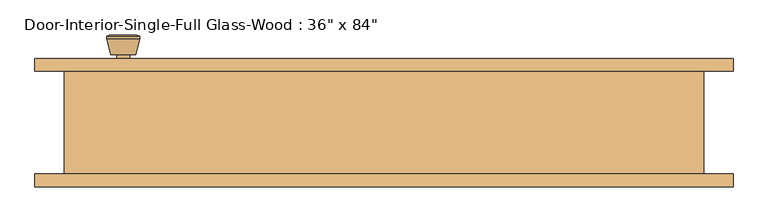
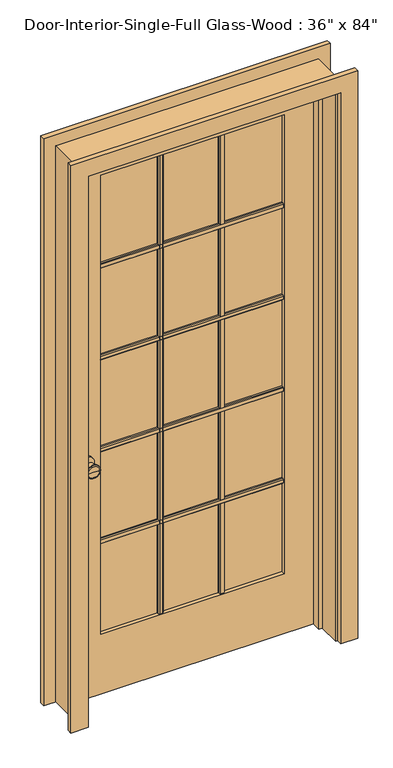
"""IFC4 building model written with IfcOpenShell, lengths in millimetres: door geometry."""

from ifc_helpers import new_model, si_unit, point, frame, frame_2d, origin, place, context, project, spatial, polyline, circle_curve, trimmed, segment, composite_curve, outline, extrude, faceted_brep, source, transform, mapped, element, save
from ifc_brep_helpers import plane_surface, cylinder_surface, revolved_surface, advanced_brep


def door_47956b35(model_context):
    return source(origin(), model_context, "Body", "SolidModel", [
        extrude(outline(polyline([(60.6425, 1667.51), (66.9925, 1667.51), (70.1675, 1664.335), (70.1675, 1651.635), (66.9925, 1648.46), (60.6425, 1648.46), (60.6425, 1667.51)])), frame((-336.55, 0.0, 0.0), z_axis=(1.0, 0.0, 0.0), x_axis=(0.0, 1.0, 0.0)), (0.0, 0.0, 1.0), 673.1),
        extrude(outline(polyline([(60.6425, 1310.9575), (66.9925, 1310.9575), (70.1675, 1307.7825), (70.1675, 1295.0825), (66.9925, 1291.9075), (60.6425, 1291.9075), (60.6425, 1310.9575)])), frame((-336.55, 0.0, 0.0), z_axis=(1.0, 0.0, 0.0), x_axis=(0.0, 1.0, 0.0)), (0.0, 0.0, 1.0), 673.1),
        extrude(outline(polyline([(60.6425, 954.405), (66.9925, 954.405), (70.1675, 951.23), (70.1675, 938.53), (66.9925, 935.355), (60.6425, 935.355), (60.6425, 954.405)])), frame((-336.55, 0.0, 0.0), z_axis=(1.0, 0.0, 0.0), x_axis=(0.0, 1.0, 0.0)), (0.0, 0.0, 1.0), 673.1),
        extrude(outline(polyline([(60.6425, 597.8525), (66.9925, 597.8525), (70.1675, 594.6775), (70.1675, 581.9775), (66.9925, 578.8025), (60.6425, 578.8025), (60.6425, 597.8525)])), frame((-336.55, 0.0, 0.0), z_axis=(1.0, 0.0, 0.0), x_axis=(0.0, 1.0, 0.0)), (0.0, 0.0, 1.0), 673.1),
        extrude(outline(polyline([(102.6583333, 60.6425), (102.6583333, 66.9925), (105.8333333, 70.1675), (118.5333333, 70.1675), (121.7083333, 66.9925), (121.7083333, 60.6425), (102.6583333, 60.6425)])), frame((0.0, 0.0, 231.775), z_axis=(0.0, 0.0, 1.0), x_axis=(1.0, 0.0, 0.0)), (0.0, 0.0, 1.0), 1782.7625),
        extrude(outline(polyline([(-121.7083333, 60.6425), (-121.7083333, 66.9925), (-118.5333333, 70.1675), (-105.8333333, 70.1675), (-102.6583333, 66.9925), (-102.6583333, 60.6425), (-121.7083333, 60.6425)])), frame((0.0, 0.0, 231.775), z_axis=(0.0, 0.0, 1.0), x_axis=(1.0, 0.0, 0.0)), (0.0, 0.0, 1.0), 1782.7625),
        extrude(outline(polyline([(53.6575, 1667.51), (53.6575, 1648.46), (47.3075, 1648.46), (44.1325, 1651.635), (44.1325, 1664.335), (47.3075, 1667.51), (53.6575, 1667.51)])), frame((-336.55, 0.0, 0.0), z_axis=(1.0, 0.0, 0.0), x_axis=(0.0, 1.0, 0.0)), (0.0, 0.0, 1.0), 673.1),
        extrude(outline(polyline([(53.6575, 1310.9575), (53.6575, 1291.9075), (47.3075, 1291.9075), (44.1325, 1295.0825), (44.1325, 1307.7825), (47.3075, 1310.9575), (53.6575, 1310.9575)])), frame((-336.55, 0.0, 0.0), z_axis=(1.0, 0.0, 0.0), x_axis=(0.0, 1.0, 0.0)), (0.0, 0.0, 1.0), 673.1),
        extrude(outline(polyline([(53.6575, 954.405), (53.6575, 935.355), (47.3075, 935.355), (44.1325, 938.53), (44.1325, 951.23), (47.3075, 954.405), (53.6575, 954.405)])), frame((-336.55, 0.0, 0.0), z_axis=(1.0, 0.0, 0.0), x_axis=(0.0, 1.0, 0.0)), (0.0, 0.0, 1.0), 673.1),
        extrude(outline(polyline([(53.6575, 597.8525), (53.6575, 578.8025), (47.3075, 578.8025), (44.1325, 581.9775), (44.1325, 594.6775), (47.3075, 597.8525), (53.6575, 597.8525)])), frame((-336.55, 0.0, 0.0), z_axis=(1.0, 0.0, 0.0), x_axis=(0.0, 1.0, 0.0)), (0.0, 0.0, 1.0), 673.1),
        extrude(outline(polyline([(102.6583333, 53.6575), (121.7083333, 53.6575), (121.7083333, 47.3075), (118.5333333, 44.1325), (105.8333333, 44.1325), (102.6583333, 47.3075), (102.6583333, 53.6575)])), frame((0.0, 0.0, 231.775), z_axis=(0.0, 0.0, 1.0), x_axis=(1.0, 0.0, 0.0)), (0.0, 0.0, 1.0), 1782.7625),
        extrude(outline(polyline([(-121.7083333, 53.6575), (-102.6583333, 53.6575), (-102.6583333, 47.3075), (-105.8333333, 44.1325), (-118.5333333, 44.1325), (-121.7083333, 47.3075), (-121.7083333, 53.6575)])), frame((0.0, 0.0, 231.775), z_axis=(0.0, 0.0, 1.0), x_axis=(1.0, 0.0, 0.0)), (0.0, 0.0, 1.0), 1782.7625),
        advanced_brep(
        [(-393.7, 33.6875, 914.4), (-383.7, 33.6875, 914.4), (-403.7, 33.6875, 914.4), (-373.2241324, -15.3125, 914.4), (-393.7, -15.3125, 914.4), (-414.1758676, -15.3125, 914.4), (-368.7, -13.4846319, 914.4), (-418.7, -13.4846319, 914.4), (-368.7, -10.0209537, 914.4), (-418.7, -10.0209537, 914.4), (-375.063764, 14.6875, 914.4), (-412.336236, 14.6875, 914.4), (-383.7, 14.6875, 914.4), (-403.7, 14.6875, 914.4)],
        [
            (0, 1),
            (1, 2, circle_curve(frame((-393.7, 33.6875, 914.4), z_axis=(0.0, 1.0, 0.0), x_axis=(-1.0, 0.0, 0.0)), 10.0)),
            (2, 0),
            (2, 1, circle_curve(frame((-393.7, 33.6875, 914.4), z_axis=(0.0, 1.0, 0.0), x_axis=(-1.0, 0.0, 0.0)), 10.0)),
            (3, 4),
            (4, 5),
            (5, 3, circle_curve(frame((-393.7, -15.3125, 914.4), z_axis=(0.0, -1.0, 0.0), x_axis=(-1.0, 0.0, 0.0)), 20.4758676)),
            (3, 5, circle_curve(frame((-393.7, -15.3125, 914.4), z_axis=(0.0, -1.0, 0.0), x_axis=(-1.0, 0.0, 0.0)), 20.4758676)),
            (6, 3),
            (5, 7),
            (7, 6, circle_curve(frame((-393.7, -13.4846319, 914.4), z_axis=(0.0, -1.0, 0.0), x_axis=(-1.0, 0.0, 0.0)), 25.0)),
            (6, 7, circle_curve(frame((-393.7, -13.4846319, 914.4), z_axis=(0.0, -1.0, 0.0), x_axis=(-1.0, 0.0, 0.0)), 25.0)),
            (8, 6),
            (7, 9),
            (9, 8, circle_curve(frame((-393.7, -10.0209537, 914.4), z_axis=(0.0, -1.0, 0.0), x_axis=(-1.0, 0.0, 0.0)), 25.0)),
            (8, 9, circle_curve(frame((-393.7, -10.0209537, 914.4), z_axis=(0.0, -1.0, 0.0), x_axis=(-1.0, 0.0, 0.0)), 25.0)),
            (10, 8),
            (9, 11),
            (11, 10, circle_curve(frame((-393.7, 14.6875, 914.4), z_axis=(0.0, -1.0, 0.0), x_axis=(-1.0, 0.0, 0.0)), 18.636236)),
            (10, 11, circle_curve(frame((-393.7, 14.6875, 914.4), z_axis=(0.0, -1.0, 0.0), x_axis=(-1.0, 0.0, 0.0)), 18.636236)),
            (12, 10),
            (11, 13),
            (13, 12, circle_curve(frame((-393.7, 14.6875, 914.4), z_axis=(0.0, -1.0, 0.0), x_axis=(-1.0, 0.0, 0.0)), 10.0)),
            (12, 13, circle_curve(frame((-393.7, 14.6875, 914.4), z_axis=(0.0, -1.0, 0.0), x_axis=(-1.0, 0.0, 0.0)), 10.0)),
            (1, 12),
            (13, 2),
        ],
        [
            plane_surface(frame((-393.7, 33.6875, 914.4), z_axis=(0.0, 1.0, 0.0), x_axis=(-1.0, 0.0, 0.0))),
            plane_surface(frame((-393.7, -15.3125, 914.4), z_axis=(0.0, -1.0, 0.0), x_axis=(-1.0, 0.0, 0.0))),
            revolved_surface(polyline([(-414.1758676, -15.3125, 914.4), (-418.7, -13.4846319, 914.4)]), (-393.7, 33.6875, 914.4), (0.0, 1.0, 0.0)),
            cylinder_surface(frame((-393.7, 33.6875, 914.4), z_axis=(0.0, 1.0, 0.0), x_axis=(-1.0, 0.0, 0.0)), 25.0),
            revolved_surface(polyline([(-418.7, -10.0209537, 914.4), (-412.336236, 14.6875, 914.4)]), (-393.7, 33.6875, 914.4), (0.0, 1.0, 0.0)),
            plane_surface(frame((-393.7, 14.6875, 914.4), z_axis=(0.0, 1.0, 0.0), x_axis=(-1.0, 0.0, 0.0))),
            cylinder_surface(frame((-393.7, 33.6875, 914.4), z_axis=(0.0, 1.0, 0.0), x_axis=(-1.0, 0.0, 0.0)), 10.0),
        ],
        [
            (0, [[1, 2, 3]]),
            (0, [[-3, 4, -1]]),
            (1, [[5, 6, 7]]),
            (1, [[-6, -5, 8]]),
            (2, [[9, -7, 10, 11]]),
            (2, [[-10, -8, -9, 12]]),
            (3, [[13, -11, 14, 15]]),
            (3, [[-14, -12, -13, 16]]),
            (4, [[17, -15, 18, 19]]),
            (4, [[-18, -16, -17, 20]]),
            (5, [[21, -19, 22, 23]]),
            (5, [[-22, -20, -21, 24]]),
            (6, [[25, -23, 26, -2]]),
            (6, [[-26, -24, -25, -4]]),
        ],
    ),
        extrude(outline(composite_curve([segment(trimmed(circle_curve(frame_2d((914.4, -393.7)), 30.0), [point((914.4, -423.7))], [point((914.4, -363.7))], False, "CARTESIAN"), True, "CONTINUOUS"), segment(trimmed(circle_curve(frame_2d((914.4, -393.7)), 30.0), [point((914.4, -363.7))], [point((914.4, -423.7))], False, "CARTESIAN"), True, "CONTINUOUS")], self_intersect=False)), frame((0.0, 33.6875, 0.0), z_axis=(0.0, 1.0, 0.0), x_axis=(0.0, 0.0, 1.0)), (0.0, 0.0, 1.0), 6.0),
        advanced_brep(
        [(-393.7, 80.6125, 914.4), (-403.7, 80.6125, 914.4), (-383.7, 80.6125, 914.4), (-373.2241324, 129.6125, 914.4), (-414.1758676, 129.6125, 914.4), (-393.7, 129.6125, 914.4), (-368.7, 127.7846319, 914.4), (-418.7, 127.7846319, 914.4), (-368.7, 124.3209537, 914.4), (-418.7, 124.3209537, 914.4), (-375.063764, 99.6125, 914.4), (-412.336236, 99.6125, 914.4), (-383.7, 99.6125, 914.4), (-403.7, 99.6125, 914.4)],
        [
            (0, 1),
            (1, 2, circle_curve(frame((-393.7, 80.6125, 914.4), z_axis=(0.0, -1.0, 0.0), x_axis=(-1.0, 0.0, 0.0)), 10.0)),
            (2, 0),
            (2, 1, circle_curve(frame((-393.7, 80.6125, 914.4), z_axis=(0.0, -1.0, 0.0), x_axis=(-1.0, 0.0, 0.0)), 10.0)),
            (3, 4, circle_curve(frame((-393.7, 129.6125, 914.4), z_axis=(0.0, 1.0, 0.0), x_axis=(-1.0, 0.0, 0.0)), 20.4758676)),
            (4, 5),
            (5, 3),
            (4, 3, circle_curve(frame((-393.7, 129.6125, 914.4), z_axis=(0.0, 1.0, 0.0), x_axis=(-1.0, 0.0, 0.0)), 20.4758676)),
            (6, 7, circle_curve(frame((-393.7, 127.7846319, 914.4), z_axis=(0.0, 1.0, 0.0), x_axis=(-1.0, 0.0, 0.0)), 25.0)),
            (7, 4),
            (3, 6),
            (7, 6, circle_curve(frame((-393.7, 127.7846319, 914.4), z_axis=(0.0, 1.0, 0.0), x_axis=(-1.0, 0.0, 0.0)), 25.0)),
            (8, 9, circle_curve(frame((-393.7, 124.3209537, 914.4), z_axis=(0.0, 1.0, 0.0), x_axis=(-1.0, 0.0, 0.0)), 25.0)),
            (9, 7),
            (6, 8),
            (9, 8, circle_curve(frame((-393.7, 124.3209537, 914.4), z_axis=(0.0, 1.0, 0.0), x_axis=(-1.0, 0.0, 0.0)), 25.0)),
            (10, 11, circle_curve(frame((-393.7, 99.6125, 914.4), z_axis=(0.0, 1.0, 0.0), x_axis=(-1.0, 0.0, 0.0)), 18.636236)),
            (11, 9),
            (8, 10),
            (11, 10, circle_curve(frame((-393.7, 99.6125, 914.4), z_axis=(0.0, 1.0, 0.0), x_axis=(-1.0, 0.0, 0.0)), 18.636236)),
            (12, 13, circle_curve(frame((-393.7, 99.6125, 914.4), z_axis=(0.0, 1.0, 0.0), x_axis=(-1.0, 0.0, 0.0)), 10.0)),
            (13, 11),
            (10, 12),
            (13, 12, circle_curve(frame((-393.7, 99.6125, 914.4), z_axis=(0.0, 1.0, 0.0), x_axis=(-1.0, 0.0, 0.0)), 10.0)),
            (1, 13),
            (12, 2),
        ],
        [
            plane_surface(frame((-393.7, 80.6125, 914.4), z_axis=(0.0, -1.0, 0.0), x_axis=(-1.0, 0.0, 0.0))),
            plane_surface(frame((-393.7, 129.6125, 914.4), z_axis=(0.0, 1.0, 0.0), x_axis=(-1.0, 0.0, 0.0))),
            revolved_surface(polyline([(-414.1758676, 129.6125, 914.4), (-418.7, 127.7846319, 914.4)]), (-393.7, 80.6125, 914.4), (0.0, -1.0, 0.0)),
            cylinder_surface(frame((-393.7, 80.6125, 914.4), z_axis=(0.0, -1.0, 0.0), x_axis=(-1.0, 0.0, 0.0)), 25.0),
            revolved_surface(polyline([(-418.7, 124.3209537, 914.4), (-412.336236, 99.6125, 914.4)]), (-393.7, 80.6125, 914.4), (0.0, -1.0, 0.0)),
            plane_surface(frame((-393.7, 99.6125, 914.4), z_axis=(0.0, -1.0, 0.0), x_axis=(-1.0, 0.0, 0.0))),
            cylinder_surface(frame((-393.7, 80.6125, 914.4), z_axis=(0.0, -1.0, 0.0), x_axis=(-1.0, 0.0, 0.0)), 10.0),
        ],
        [
            (0, [[1, 2, 3]]),
            (0, [[-3, 4, -1]]),
            (1, [[5, 6, 7]]),
            (1, [[8, -7, -6]]),
            (2, [[9, 10, -5, 11]]),
            (2, [[12, -11, -8, -10]]),
            (3, [[13, 14, -9, 15]]),
            (3, [[16, -15, -12, -14]]),
            (4, [[17, 18, -13, 19]]),
            (4, [[20, -19, -16, -18]]),
            (5, [[21, 22, -17, 23]]),
            (5, [[24, -23, -20, -22]]),
            (6, [[-2, 25, -21, 26]]),
            (6, [[-4, -26, -24, -25]]),
        ],
    ),
        extrude(outline(composite_curve([segment(trimmed(circle_curve(frame_2d((914.4, -393.7)), 30.0), [point((914.4, -423.7))], [point((914.4, -363.7))], False, "CARTESIAN"), True, "CONTINUOUS"), segment(trimmed(circle_curve(frame_2d((914.4, -393.7)), 30.0), [point((914.4, -363.7))], [point((914.4, -423.7))], False, "CARTESIAN"), True, "CONTINUOUS")], self_intersect=False)), frame((0.0, 74.6125, 0.0), z_axis=(0.0, 1.0, 0.0), x_axis=(0.0, 0.0, 1.0)), (0.0, 0.0, 1.0), 6.0),
        extrude(outline(polyline([(2133.6, -457.2), (0.0, -457.2), (0.0, 457.2), (2133.6, 457.2), (2133.6, -457.2)]), holes=[polyline([(2014.5375, -336.55), (2014.5375, 336.55), (231.775, 336.55), (231.775, -336.55), (2014.5375, -336.55)])]), frame((0.0, 39.6875, 0.0), z_axis=(0.0, 1.0, 0.0), x_axis=(0.0, 0.0, 1.0)), (0.0, 0.0, 1.0), 34.925),
        faceted_brep([(482.6, 74.6125, 0.0), (482.6, -80.9625, 0.0), (457.2, -80.9625, 0.0), (457.2, 4.7625, 0.0), (444.5, 4.7625, 0.0), (444.5, 39.6875, 0.0), (457.2, 39.6875, 0.0), (457.2, 74.6125, 0.0), (482.6, 74.6125, 2159.0), (482.6, -80.9625, 2159.0), (-482.6, -80.9625, 2159.0), (-482.6, -80.9625, 0.0), (-457.2, -80.9625, 0.0), (-457.2, -80.9625, 2133.6), (457.2, -80.9625, 2133.6), (457.2, 4.7625, 2133.6), (-457.2, 4.7625, 2133.6), (-457.2, 4.7625, 0.0), (-444.5, 4.7625, 0.0), (-444.5, 4.7625, 2120.9), (444.5, 4.7625, 2120.9), (444.5, 39.6875, 2120.9), (-444.5, 39.6875, 2120.9), (-444.5, 39.6875, 0.0), (-457.2, 39.6875, 0.0), (-457.2, 39.6875, 2133.6), (457.2, 39.6875, 2133.6), (457.2, 74.6125, 2133.6), (-457.2, 74.6125, 2133.6), (-457.2, 74.6125, 0.0), (-482.6, 74.6125, 0.0), (-482.6, 74.6125, 2159.0)], [[[0, 1, 2, 3, 4, 5, 6, 7]], [[1, 0, 8, 9]], [[2, 1, 9, 10, 11, 12, 13, 14]], [[3, 2, 14, 15]], [[4, 3, 15, 16, 17, 18, 19, 20]], [[5, 4, 20, 21]], [[6, 5, 21, 22, 23, 24, 25, 26]], [[7, 6, 26, 27]], [[0, 7, 27, 28, 29, 30, 31, 8]], [[9, 8, 31, 10]], [[15, 14, 13, 16]], [[21, 20, 19, 22]], [[27, 26, 25, 28]], [[30, 29, 24, 23, 18, 17, 12, 11]], [[10, 31, 30, 11]], [[16, 13, 12, 17]], [[22, 19, 18, 23]], [[28, 25, 24, 29]]]),
        extrude(outline(polyline([(336.55, 53.6575), (-336.55, 53.6575), (-336.55, 60.6425), (336.55, 60.6425), (336.55, 53.6575)])), frame((0.0, 0.0, 231.775), z_axis=(0.0, 0.0, 1.0), x_axis=(1.0, 0.0, 0.0)), (0.0, 0.0, 1.0), 1782.7625),
        extrude(outline(polyline([(0.0, 463.55), (0.0, 527.05), (2203.45, 527.05), (2203.45, -527.05), (0.0, -527.05), (0.0, -463.55), (2139.95, -463.55), (2139.95, 463.55), (0.0, 463.55)])), frame((0.0, -100.0125, 0.0), z_axis=(0.0, 1.0, 0.0), x_axis=(0.0, 0.0, 1.0)), (0.0, 0.0, 1.0), 19.05),
        extrude(outline(polyline([(0.0, 463.55), (0.0, 527.05), (2203.45, 527.05), (2203.45, -527.05), (0.0, -527.05), (0.0, -463.55), (2139.95, -463.55), (2139.95, 463.55), (0.0, 463.55)])), frame((0.0, 74.6125, 0.0), z_axis=(0.0, 1.0, 0.0), x_axis=(0.0, 0.0, 1.0)), (0.0, 0.0, 1.0), 19.05),
    ])


if __name__ == "__main__":
    model = new_model("IFC4")
    model_context = context("Model", 3, world=origin())
    ifc_project = project(units=[si_unit("LENGTHUNIT", "METRE", prefix="MILLI")], contexts=[model_context])
    site = spatial("IfcSite", under=ifc_project)
    building = spatial("IfcBuilding", under=site)
    placement = place(None, origin())
    door_shape = door_47956b35(model_context)
    element("IfcDoor", 1, ObjectType="Door-Interior-Single-Full Glass-Wood : 36\" x 84\"", at=placement, inside=building, context=model_context, shape_type="MappedRepresentation", body=[
        mapped(door_shape, transform((0.0, 0.0, 0.0), x_axis=(1.0, 0.0, 0.0), y_axis=(0.0, 1.0, 0.0), z_axis=(0.0, 0.0, 1.0))),
    ])
    save(model, "model.ifc")
